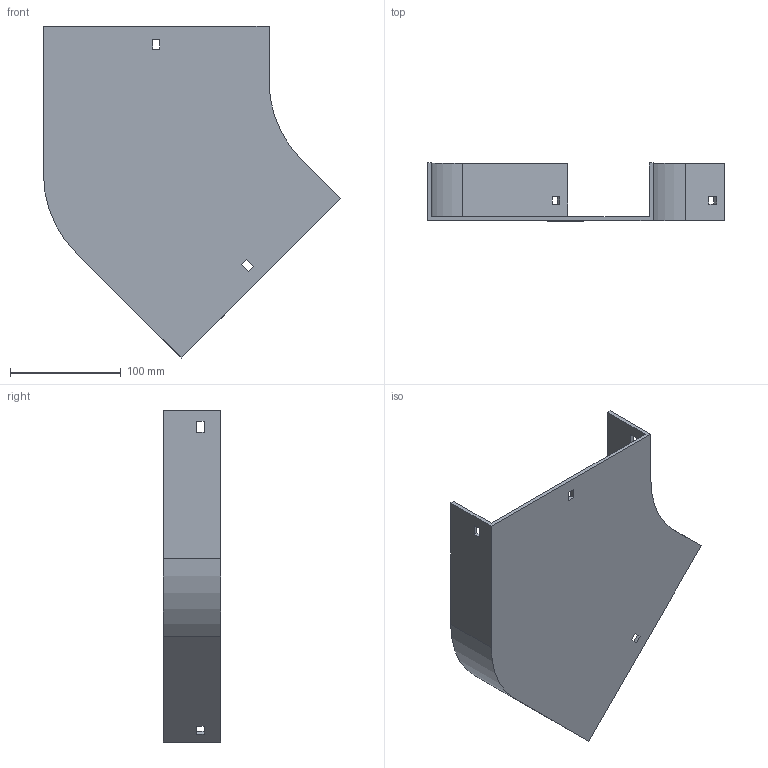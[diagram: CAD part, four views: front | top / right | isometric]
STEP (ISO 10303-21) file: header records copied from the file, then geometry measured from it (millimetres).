
FILE_DESCRIPTION (( 'STEP AP214' ), '1' );
FILE_NAME ('11B1B200.step', '2025-02-21T09:37:38', ( '' ), ( '' ), 'SwSTEP 2.0', 'SolidWorks 2023', '' );
FILE_SCHEMA (( 'AUTOMOTIVE_DESIGN' ));
Length unit declared in the file: millimetre
Products named in the file (1): 11B1B200
Bounding box: 268.64 x 52 x 300.32 mm (x, y, z)
Volume: 278794.8 mm3; surface area: 163952.6 mm2
Topology: 1 solids, 1 shells, 42 faces, 120 edges, 80 vertices
Faces by surface type: plane 38, cylinder 4
Entity records: 1399 total; most frequent: CARTESIAN_POINT 243, ORIENTED_EDGE 240, DIRECTION 214, EDGE_CURVE 120, LINE 112, VECTOR 112, VERTEX_POINT 80, EDGE_LOOP 54
